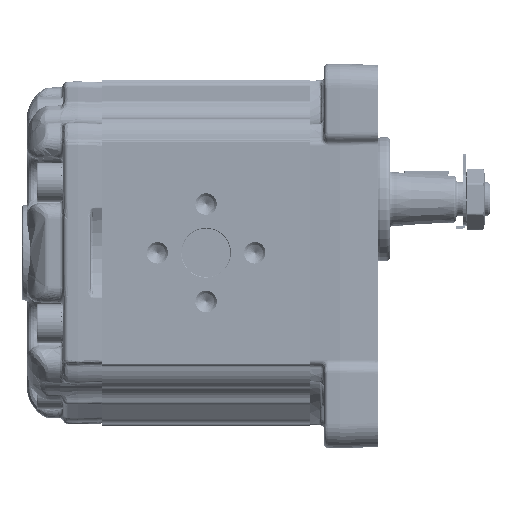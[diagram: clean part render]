
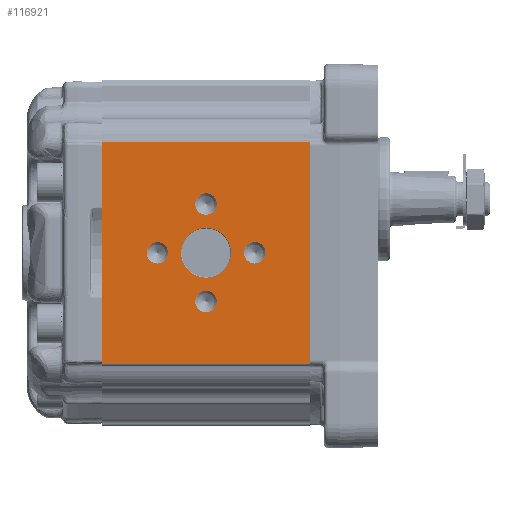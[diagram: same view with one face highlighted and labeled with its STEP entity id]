
A CAD part, left-side view. The second image highlights one B-rep face of the part: STEP entity #116921.
In plain terms, the highlighted planar face has unit normal (-1, 0, 0) as drawn and (1, 0, 0) by its records, which use the part's own axes.
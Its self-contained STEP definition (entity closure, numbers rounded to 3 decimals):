
#6837=PLANE('',#123596);
#9658=LINE('',#179817,#14517);
#9669=LINE('',#179901,#14528);
#9715=LINE('',#180067,#14574);
#9716=LINE('',#180068,#14575);
#14517=VECTOR('',#137532,1000.);
#14528=VECTOR('',#137607,1000.);
#14574=VECTOR('',#137785,1000.);
#14575=VECTOR('',#137786,1000.);
#29621=ORIENTED_EDGE('',*,*,#50610,.T.);
#29622=ORIENTED_EDGE('',*,*,#50611,.T.);
#29623=ORIENTED_EDGE('',*,*,#50612,.T.);
#29624=ORIENTED_EDGE('',*,*,#50613,.T.);
#29625=ORIENTED_EDGE('',*,*,#50614,.T.);
#29626=ORIENTED_EDGE('',*,*,#50485,.F.);
#29627=ORIENTED_EDGE('',*,*,#50615,.T.);
#29628=ORIENTED_EDGE('',*,*,#50527,.F.);
#29629=ORIENTED_EDGE('',*,*,#50616,.T.);
#50485=EDGE_CURVE('',#61846,#61847,#9658,.T.);
#50527=EDGE_CURVE('',#61888,#61889,#9669,.T.);
#50610=EDGE_CURVE('',#61937,#61937,#68749,.F.);
#50611=EDGE_CURVE('',#61938,#61938,#68750,.F.);
#50612=EDGE_CURVE('',#61939,#61939,#68751,.F.);
#50613=EDGE_CURVE('',#61940,#61940,#68752,.F.);
#50614=EDGE_CURVE('',#61941,#61941,#68753,.F.);
#50615=EDGE_CURVE('',#61846,#61889,#9715,.F.);
#50616=EDGE_CURVE('',#61888,#61847,#9716,.F.);
#61846=VERTEX_POINT('',#179816);
#61847=VERTEX_POINT('',#179818);
#61888=VERTEX_POINT('',#179902);
#61889=VERTEX_POINT('',#179903);
#61937=VERTEX_POINT('',#180058);
#61938=VERTEX_POINT('',#180060);
#61939=VERTEX_POINT('',#180062);
#61940=VERTEX_POINT('',#180064);
#61941=VERTEX_POINT('',#180066);
#68749=CIRCLE('',#123597,4.4);
#68750=CIRCLE('',#123598,4.4);
#68751=CIRCLE('',#123599,4.4);
#68752=CIRCLE('',#123600,4.4);
#68753=CIRCLE('',#123601,10.2);
#73000=EDGE_LOOP('',(#29621));
#73001=EDGE_LOOP('',(#29622));
#73002=EDGE_LOOP('',(#29623));
#73003=EDGE_LOOP('',(#29624));
#73004=EDGE_LOOP('',(#29625));
#73005=EDGE_LOOP('',(#29626,#29627,#29628,#29629));
#78066=FACE_BOUND('',#73000,.T.);
#78067=FACE_BOUND('',#73001,.T.);
#78068=FACE_BOUND('',#73002,.T.);
#78069=FACE_BOUND('',#73003,.T.);
#78070=FACE_BOUND('',#73004,.T.);
#78071=FACE_BOUND('',#73005,.T.);
#116921=ADVANCED_FACE('',(#78066,#78067,#78068,#78069,#78070,#78071),#6837,
 .T.);
#123596=AXIS2_PLACEMENT_3D('',#180056,#137773,#137774);
#123597=AXIS2_PLACEMENT_3D('',#180057,#137775,#137776);
#123598=AXIS2_PLACEMENT_3D('',#180059,#137777,#137778);
#123599=AXIS2_PLACEMENT_3D('',#180061,#137779,#137780);
#123600=AXIS2_PLACEMENT_3D('',#180063,#137781,#137782);
#123601=AXIS2_PLACEMENT_3D('',#180065,#137783,#137784);
#137532=DIRECTION('',(0.,0.,-1.));
#137607=DIRECTION('',(0.,0.,1.));
#137773=DIRECTION('',(1.,0.,0.));
#137774=DIRECTION('',(0.,0.,1.));
#137775=DIRECTION('',(1.,0.,0.));
#137776=DIRECTION('',(0.,0.,1.));
#137777=DIRECTION('',(1.,0.,0.));
#137778=DIRECTION('',(0.,0.,1.));
#137779=DIRECTION('',(1.,0.,0.));
#137780=DIRECTION('',(0.,0.,1.));
#137781=DIRECTION('',(1.,0.,0.));
#137782=DIRECTION('',(0.,0.,1.));
#137783=DIRECTION('',(1.,0.,0.));
#137784=DIRECTION('',(0.,0.,1.));
#137785=DIRECTION('',(0.,1.,0.));
#137786=DIRECTION('',(0.,-1.,0.));
#179816=CARTESIAN_POINT('',(57.5,85.,45.5));
#179817=CARTESIAN_POINT('',(57.5,85.,91.388));
#179818=CARTESIAN_POINT('',(57.5,85.,-45.5));
#179901=CARTESIAN_POINT('',(57.5,0.,-44.978));
#179902=CARTESIAN_POINT('',(57.5,0.,-45.5));
#179903=CARTESIAN_POINT('',(57.5,0.,45.5));
#180056=CARTESIAN_POINT('',(57.5,-142.954,91.388));
#180057=CARTESIAN_POINT('',(57.5,42.5,20.));
#180058=CARTESIAN_POINT('',(57.5,42.5,24.4));
#180059=CARTESIAN_POINT('',(57.5,22.5,0.));
#180060=CARTESIAN_POINT('',(57.5,22.5,4.4));
#180061=CARTESIAN_POINT('',(57.5,42.5,-20.));
#180062=CARTESIAN_POINT('',(57.5,42.5,-15.6));
#180063=CARTESIAN_POINT('',(57.5,62.5,0.));
#180064=CARTESIAN_POINT('',(57.5,62.5,4.4));
#180065=CARTESIAN_POINT('',(57.5,42.5,0.));
#180066=CARTESIAN_POINT('',(57.5,42.5,10.2));
#180067=CARTESIAN_POINT('',(57.5,-142.954,45.5));
#180068=CARTESIAN_POINT('',(57.5,-142.954,-45.5));
